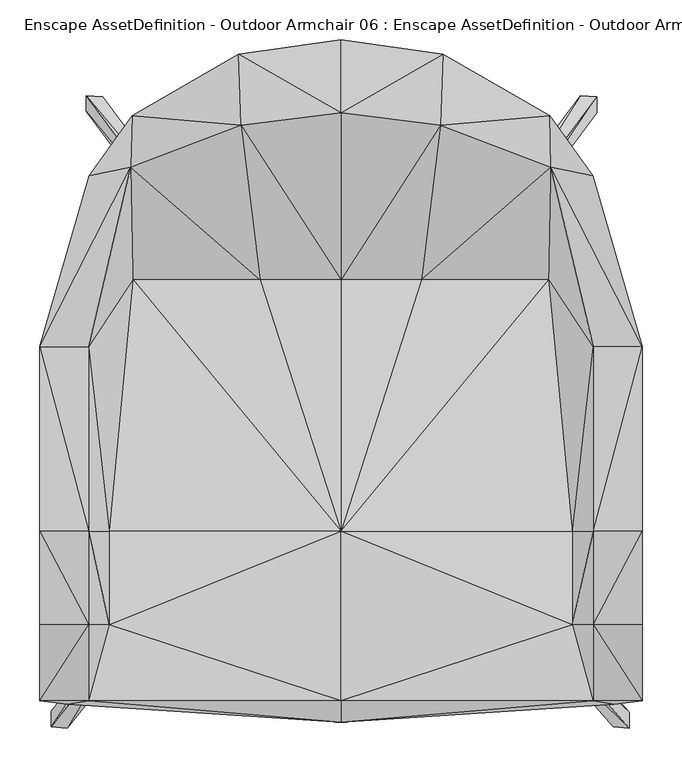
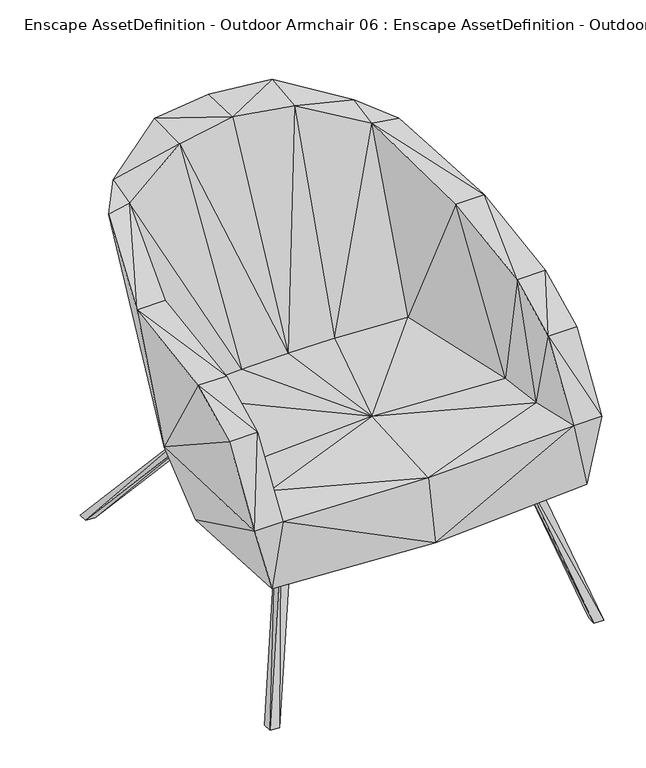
"""IFC4 building model written with IfcOpenShell, lengths in millimetres: geographic element geometry, Enscape AssetDefinition - Outdoor Armchair 06 : Enscape AssetDefinition - Outdoor Armchair 06."""

import ifcopenshell
import ifcopenshell.guid

model = None  # the IFC model being written
_history = None  # IfcOwnerHistory: only IFC2X3 demands one
_inside = {}  # id of a spatial element -> (the spatial element, [elements in it])
_under = {}  # id of a project, library or spatial element -> (it, [spatial elements below it])
_declared = {}  # id of a project -> (the project, [libraries it declares])
_typed = {}  # id of a type object -> (the type object, [elements of that type])
_made_of = {}  # id of a material, layer set ... -> (it, [elements and type objects made of it])


def new_model(schema):
    """Start an empty IFC model of exactly this schema.

    Asked for "IFC4X3", IfcOpenShell would pick the latest addendum, in which some entities
    have other attributes; the version numbers below select the first issue.
    IFC2X3 requires an IfcOwnerHistory on every rooted entity: one is made here for all.
    """
    global model, _history
    if schema == "IFC4X3":
        model = ifcopenshell.file(schema_version=(4, 3, 0, 0))
    else:
        model = ifcopenshell.file(schema=schema)
    _inside.clear()
    _under.clear()
    _declared.clear()
    _typed.clear()
    _made_of.clear()
    _history = None
    if model.schema == "IFC2X3":
        org = make("IfcOrganization", Name="unknown")
        user = make(
            "IfcPersonAndOrganization",
            ThePerson=make("IfcPerson", FamilyName="unknown"),
            TheOrganization=org,
        )
        app = make(
            "IfcApplication",
            ApplicationDeveloper=org,
            Version="unknown",
            ApplicationFullName="unknown",
            ApplicationIdentifier="unknown",
        )
        _history = make(
            "IfcOwnerHistory",
            OwningUser=user,
            OwningApplication=app,
            ChangeAction="ADDED",
            CreationDate=0,
        )
    return model


def make(cls, **values):
    """One entity of the class cls with the attributes given. An attribute that is None is left unset."""
    return model.create_entity(
        cls, **{name: value for name, value in values.items() if value is not None}
    )


def rooted(cls, **values):
    """An entity with a GlobalId (a new one), such as an element, a storey or a relation."""
    return make(cls, GlobalId=ifcopenshell.guid.new(), OwnerHistory=_history, **values)


def si_unit(unit_type, name, prefix=None):
    """IfcSIUnit, for example si_unit("LENGTHUNIT", "METRE", prefix="MILLI")."""
    return make("IfcSIUnit", UnitType=unit_type, Prefix=prefix, Name=name)


def assignment(units):
    """IfcUnitAssignment: the units of a project."""
    return None if units is None else make("IfcUnitAssignment", Units=units)


def point(xyz):
    """IfcCartesianPoint."""
    return None if xyz is None else make("IfcCartesianPoint", Coordinates=xyz)


def direction(xyz):
    """IfcDirection."""
    return None if xyz is None else make("IfcDirection", DirectionRatios=xyz)


def frame(location, z_axis=None, x_axis=None):
    """IfcAxis2Placement3D, a coordinate frame: its origin and axes. An axis left out is left unset."""
    return make(
        "IfcAxis2Placement3D",
        Location=point(location),
        Axis=direction(z_axis),
        RefDirection=direction(x_axis),
    )


def origin():
    """The frame at (0, 0, 0) with its axes left unset."""
    return frame((0.0, 0.0, 0.0))


def place(relative_to, where):
    """IfcLocalPlacement: puts the frame where relative to a parent placement (None: the world)."""
    return make(
        "IfcLocalPlacement", PlacementRelTo=relative_to, RelativePlacement=where
    )


def context(
    kind, dimensions, precision=None, world=None, true_north=None, identifier=None
):
    """IfcGeometricRepresentationContext, for example the 3D "Model" context."""
    return make(
        "IfcGeometricRepresentationContext",
        ContextIdentifier=identifier,
        ContextType=kind,
        CoordinateSpaceDimension=dimensions,
        Precision=precision,
        WorldCoordinateSystem=world,
        TrueNorth=true_north,
    )


def project(units=None, contexts=None):
    """IfcProject with its units and contexts."""
    return rooted(
        "IfcProject",
        Name="project",
        RepresentationContexts=contexts,
        UnitsInContext=assignment(units),
    )


def spatial(cls, under=None, at=None, **own):
    """A site, building, storey or space (cls), placed at a placement, below another one or the project."""
    s = rooted(cls, ObjectPlacement=at, **own)
    if under is not None:
        _under.setdefault(under.id(), (under, []))[1].append(s)
    return s


def faces_of(points, faces, orient=None, outer=None):
    """IfcFace entities. A face is a list of loops; a loop is a list of indices into points, from 0.

    orient and outer hold one flag for each loop. By default every Orientation is true, the
    first loop of a face is its IfcFaceOuterBound and the others are IfcFaceBound.
    """
    made = []
    for i, loops in enumerate(faces):
        bounds = []
        for j, loop in enumerate(loops):
            is_outer = j == 0 if outer is None else outer[i][j]
            bounds.append(
                make(
                    "IfcFaceOuterBound" if is_outer else "IfcFaceBound",
                    Bound=make("IfcPolyLoop", Polygon=[points[k] for k in loop]),
                    Orientation=True if orient is None else orient[i][j],
                )
            )
        made.append(make("IfcFace", Bounds=bounds))
    return made


def faceted_brep(points, faces, orient=None, outer=None, voids=None):
    """IfcFacetedBrep: a solid bounded by flat faces; with voids (closed shells), ...WithVoids."""
    shared = [point(p) for p in points]
    hull = make("IfcClosedShell", CfsFaces=faces_of(shared, faces, orient, outer))
    if voids is None:
        return make("IfcFacetedBrep", Outer=hull)
    return make(
        "IfcFacetedBrepWithVoids",
        Outer=hull,
        Voids=[
            make(cls, CfsFaces=faces_of(shared, fs, o, b)) for cls, fs, o, b in voids
        ],
    )


def shape(context_of_items, identifier, shape_type, items):
    """IfcShapeRepresentation: the items that make up one representation, for example the "Body"."""
    return make(
        "IfcShapeRepresentation",
        ContextOfItems=context_of_items,
        RepresentationIdentifier=identifier,
        RepresentationType=shape_type,
        Items=items,
    )


def source(mapping_origin, context_of_items, identifier, shape_type, items):
    """IfcRepresentationMap: a shape defined once, which mapped items show again and again."""
    return make(
        "IfcRepresentationMap",
        MappingOrigin=mapping_origin,
        MappedRepresentation=shape(context_of_items, identifier, shape_type, items),
    )


def transform(
    local_origin,
    x_axis=None,
    y_axis=None,
    z_axis=None,
    scale=None,
    scale2=None,
    scale3=None,
    uniform=True,
):
    """IfcCartesianTransformationOperator3D, or its non-uniform kind. x_axis, y_axis, z_axis: its Axis1, 2, 3."""
    if uniform:
        return make(
            "IfcCartesianTransformationOperator3D",
            Axis1=direction(x_axis),
            Axis2=direction(y_axis),
            LocalOrigin=point(local_origin),
            Scale=scale,
            Axis3=direction(z_axis),
        )
    return make(
        "IfcCartesianTransformationOperator3DnonUniform",
        Axis1=direction(x_axis),
        Axis2=direction(y_axis),
        LocalOrigin=point(local_origin),
        Scale=scale,
        Axis3=direction(z_axis),
        Scale2=scale2,
        Scale3=scale3,
    )


def mapped(mapping_source, mapping_target):
    """IfcMappedItem: shows the shape of a source again, moved by a transform."""
    return make(
        "IfcMappedItem", MappingSource=mapping_source, MappingTarget=mapping_target
    )


def made_of(thing, what):
    """Note that an element or type object is made of a material, layer set ...; save() writes the relation."""
    if what is not None:
        _made_of.setdefault(what.id(), (what, []))[1].append(thing)
    return thing


def element(
    cls,
    number,
    at=None,
    inside=None,
    cuts=None,
    type_object=None,
    material=None,
    context=None,
    identifier="Body",
    shape_type=None,
    held_by="IfcProductDefinitionShape",
    body=None,
    shapes=None,
    **own,
):
    """One element of the class cls, such as IfcWall. Its Tag is "e" and its number.

    at: its placement. inside: the storey or other place that contains it. cuts: it is an
    opening in that element (IfcRelVoidsElement). A single representation is given by context,
    identifier, shape_type and body (its items); several are given by shapes. held_by: the class
    of the entity that holds the representations. save() writes the other relations.
    """
    e = rooted(cls, Tag="e%d" % number, ObjectPlacement=at, **own)
    if body is not None:
        shapes = [shape(context, identifier, shape_type, body)]
    if shapes is not None:
        e.Representation = make(held_by, Representations=shapes)
    if inside is not None:
        _inside.setdefault(inside.id(), (inside, []))[1].append(e)
    if cuts is not None:
        rooted(
            "IfcRelVoidsElement", RelatingBuildingElement=cuts, RelatedOpeningElement=e
        )
    if type_object is not None:
        _typed.setdefault(type_object.id(), (type_object, []))[1].append(e)
    return made_of(e, material)


def aggregate(whole, parts):
    """IfcRelAggregates: a whole, such as a stair, and the parts it consists of."""
    return rooted("IfcRelAggregates", RelatingObject=whole, RelatedObjects=parts)


def save(model, path):
    """Write the relations noted so far, then the file.

    IfcRelAggregates (storeys below a building ...), IfcRelContainedInSpatialStructure (elements
    in a storey), IfcRelDefinesByType, IfcRelAssociatesMaterial and IfcRelDeclares: one each for
    every whole, place, type object, material and project.
    """
    for whole, parts in _under.values():
        aggregate(whole, parts)
    for where, things in _inside.values():
        rooted(
            "IfcRelContainedInSpatialStructure",
            RelatedElements=things,
            RelatingStructure=where,
        )
    for kind, things in _typed.values():
        rooted("IfcRelDefinesByType", RelatedObjects=things, RelatingType=kind)
    for what, things in _made_of.values():
        rooted("IfcRelAssociatesMaterial", RelatedObjects=things, RelatingMaterial=what)
    for by, libraries in _declared.values():
        rooted("IfcRelDeclares", RelatingContext=by, RelatedDefinitions=libraries)
    model.write(path)


def enscape_assetdefinition_outdoor_armchair_06_enscape_9edebd44(model_context):
    return source(origin(), model_context, "Body", "Brep", [
        faceted_brep([(-174.8338789, 230.2404344, 279.9602449), (-320.6189573, 407.2730839, -6.05e-05), (-174.8338789, 210.228309, 279.9602449), (-320.6189275, 427.2852242, -6.05e-05), (-300.1300395, 405.5490196, -3.03e-05), (-154.344961, 208.5042298, 279.9602449), (-154.344961, 228.5163403, 279.9602449), (-300.1300097, 425.5611598, -3.03e-05)], [[[0, 1, 2]], [[1, 0, 3]], [[4, 2, 1]], [[3, 4, 1]], [[2, 4, 5]], [[5, 0, 2]], [[6, 3, 0]], [[0, 5, 6]], [[3, 6, 7]], [[4, 3, 7]], [[7, 5, 4]], [[5, 7, 6]]]),
        faceted_brep([(249.8019785, -240.8858091, 309.3436062), (342.9941237, -367.3208952, 2.02e-05), (249.8019785, -260.8979344, 309.3436062), (342.9941237, -347.3087847, 2.02e-05), (363.4830415, -369.0450191, 4.04e-05), (270.2908814, -262.6219392, 309.3436062), (270.2908814, -242.6099032, 309.3436062), (363.4830415, -349.0328789, 4.04e-05)], [[[0, 1, 2]], [[1, 0, 3]], [[4, 2, 1]], [[3, 4, 1]], [[2, 4, 5]], [[5, 0, 2]], [[6, 3, 0]], [[0, 5, 6]], [[3, 6, 7]], [[4, 3, 7]], [[7, 5, 4]], [[5, 7, 6]]]),
        faceted_brep([(-1.51e-05, -361.7640734, 302.7158976), (-344.2271352, -338.9387727, 302.7158678), (-336.461544, -36.9883366, 275.6303251), (-379.3554306, -334.4887793, 445.112288), (-317.6679313, -334.4887197, 445.112288), (-379.3554604, 8.3710067, 431.8166077), (-244.7401732, 245.3693449, 251.5953183), (-1.51e-05, -36.9883776, 275.6303847), (-317.6679909, -238.8804406, 593.5861468), (-379.3554902, -238.8804406, 593.5861468), (-317.2268569, 326.1366785, 754.27109), (-379.3554902, 110.8788699, 686.160624), (-379.3554604, -121.1970747, 652.4672508), (-317.6679313, -121.1970374, 652.4672508), (-291.6766107, -238.8804406, 449.2985606), (-317.6679313, 110.8789071, 686.160624), (-264.5019889, 337.2286856, 754.2712092), (-263.1152272, 401.9581676, 769.5884705), (-261.8288398, 195.686087, 393.6069608), (-125.6287843, 389.6138072, 811.9789362), (-101.5884727, 195.6860572, 400.5551934), (-291.6765511, -121.1970374, 433.9988828), (-3.53e-05, -121.1970747, 448.6195147), (-2.52e-05, 195.686087, 402.0398259), (-128.602758, 479.0720642, 817.3852563), (-7.57e-05, 405.4290652, 820.808351), (125.6286353, 389.6138072, 811.9789958), (101.588428, 195.6860721, 400.5552232), (128.6025941, 479.0721238, 817.3852563), (-7.57e-05, 497.410953, 816.30373), (-114.139691, 312.9439354, 251.5953481), (-1.01e-05, 310.4650378, 251.5953481), (263.1150484, 401.9581676, 769.5885301), (114.1396835, 312.9439652, 251.5953481), (-81.8395838, 102.4055332, 263.6128366), (336.4615142, -36.9883366, 275.6304145), (244.7401881, 245.3693449, 251.5953779), (81.8395689, 102.4055332, 263.6128962), (-3.03e-05, -334.4887793, 435.2395236), (344.2271352, -338.9388621, 302.7159572), (317.6678419, -334.4887793, 445.1123774), (291.6764915, -238.8804406, 449.2986202), (379.3554306, -334.4887793, 445.1123774), (317.6678419, -238.8804406, 593.5862064), (379.3553412, -238.8805151, 593.5862064), (379.355371, 8.3710467, 431.8166673), (379.3553412, -121.1970747, 652.46737), (317.6678419, -121.1970747, 652.46737), (317.2267377, 326.1367083, 754.2712688), (379.3553412, 110.8788699, 686.1606836), (317.6678419, 110.8788699, 686.1606836), (291.6764915, -121.1970747, 433.9989722), (264.5018101, 337.2286856, 754.2712688), (261.82881, 195.686087, 393.6069906)], [[[0, 1, 2]], [[3, 1, 4]], [[4, 1, 0]], [[3, 2, 1]], [[5, 6, 2]], [[7, 2, 6]], [[5, 2, 3]], [[0, 2, 7]], [[3, 4, 8]], [[5, 3, 9]], [[3, 8, 9]], [[6, 5, 10]], [[5, 11, 10]], [[5, 12, 11]], [[5, 9, 12]], [[8, 12, 9]], [[13, 12, 8]], [[14, 8, 4]], [[14, 13, 8]], [[11, 12, 13]], [[11, 15, 16]], [[11, 13, 15]], [[11, 16, 10]], [[10, 16, 17]], [[6, 10, 17]], [[18, 16, 15]], [[19, 16, 20]], [[17, 16, 19]], [[20, 16, 18]], [[21, 15, 13]], [[18, 15, 21]], [[21, 13, 14]], [[22, 21, 14]], [[22, 18, 21]], [[20, 18, 22]], [[19, 20, 23]], [[20, 22, 23]], [[24, 19, 25]], [[17, 19, 24]], [[19, 23, 25]], [[23, 26, 25]], [[23, 22, 27]], [[26, 23, 27]], [[25, 28, 29]], [[24, 25, 29]], [[28, 25, 26]], [[30, 24, 31]], [[30, 17, 24]], [[31, 24, 29]], [[29, 28, 31]], [[32, 33, 28]], [[26, 32, 28]], [[31, 28, 33]], [[7, 30, 31]], [[33, 7, 31]], [[30, 6, 17]], [[34, 6, 30]], [[30, 7, 34]], [[7, 6, 34]], [[35, 0, 7]], [[36, 7, 37]], [[7, 33, 37]], [[7, 36, 35]], [[0, 38, 4]], [[0, 39, 40]], [[40, 38, 0]], [[0, 35, 39]], [[38, 14, 4]], [[40, 41, 38]], [[41, 22, 38]], [[22, 14, 38]], [[40, 39, 42]], [[40, 43, 41]], [[42, 43, 40]], [[39, 35, 42]], [[43, 42, 44]], [[44, 42, 45]], [[42, 35, 45]], [[44, 46, 43]], [[43, 47, 41]], [[43, 46, 47]], [[46, 44, 45]], [[35, 36, 45]], [[48, 49, 45]], [[49, 46, 45]], [[36, 48, 45]], [[49, 47, 46]], [[47, 49, 50]], [[47, 50, 51]], [[41, 47, 51]], [[52, 49, 48]], [[49, 52, 50]], [[32, 52, 48]], [[48, 36, 32]], [[33, 36, 37]], [[33, 32, 36]], [[32, 26, 52]], [[50, 52, 53]], [[53, 52, 27]], [[27, 52, 26]], [[51, 50, 53]], [[51, 53, 22]], [[22, 53, 27]], [[22, 41, 51]]]),
        faceted_brep([(155.1733017, 230.2404791, 279.9602747), (301.8155992, 407.2731435, 2.02e-05), (155.1733017, 210.2283537, 279.9602747), (301.8155992, 427.285254, 2.02e-05), (322.304517, 405.5490196, 4.04e-05), (175.6622195, 208.5042745, 279.9602747), (175.6622195, 228.5163701, 279.9602747), (322.304517, 425.5611598, 4.04e-05)], [[[0, 1, 2]], [[1, 0, 3]], [[4, 2, 1]], [[3, 4, 1]], [[2, 4, 5]], [[5, 0, 2]], [[6, 3, 0]], [[0, 5, 6]], [[3, 6, 7]], [[4, 3, 7]], [[7, 5, 4]], [[5, 7, 6]]]),
        faceted_brep([(-280.4573476, -240.8858836, 309.3435466), (-365.0747836, -367.3208952, -6.05e-05), (-280.4573774, -260.8979344, 309.3435466), (-365.0747836, -347.3088741, -6.05e-05), (-344.5858657, -369.0450191, -6.05e-05), (-259.9684298, -262.6220286, 309.3435466), (-259.9684, -242.6099032, 309.3435466), (-344.5858657, -349.0328789, -6.05e-05)], [[[0, 1, 2]], [[1, 0, 3]], [[4, 2, 1]], [[3, 4, 1]], [[2, 4, 5]], [[5, 0, 2]], [[6, 3, 0]], [[0, 5, 6]], [[3, 6, 7]], [[4, 3, 7]], [[7, 5, 4]], [[5, 7, 6]]]),
    ])


if __name__ == "__main__":
    model = new_model("IFC4")
    model_context = context("Model", 3, world=origin())
    ifc_project = project(units=[si_unit("LENGTHUNIT", "METRE", prefix="MILLI")], contexts=[model_context])
    site = spatial("IfcSite", under=ifc_project)
    building = spatial("IfcBuilding", under=site)
    placement = place(None, origin())
    enscape_assetdefinition_outdoor_armchair_06_enscape_shape = enscape_assetdefinition_outdoor_armchair_06_enscape_9edebd44(model_context)
    element("IfcGeographicElement", 1, ObjectType="Enscape AssetDefinition - Outdoor Armchair 06 : Enscape AssetDefinition - Outdoor Armchair 06", at=placement, inside=building, context=model_context, shape_type="MappedRepresentation", body=[
        mapped(enscape_assetdefinition_outdoor_armchair_06_enscape_shape, transform((0.0, 0.0, 0.0), x_axis=(1.0, 0.0, 0.0), y_axis=(0.0, 1.0, 0.0), z_axis=(0.0, 0.0, 1.0))),
    ])
    save(model, "model.ifc")
